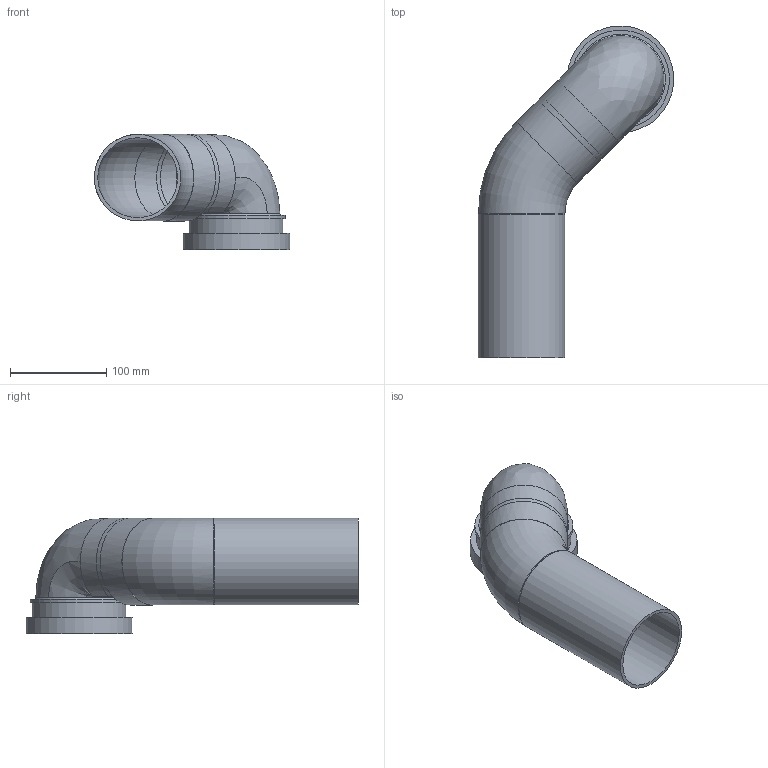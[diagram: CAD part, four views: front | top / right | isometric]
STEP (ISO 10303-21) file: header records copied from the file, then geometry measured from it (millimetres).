
FILE_DESCRIPTION(/* description */ (''),/* implementation_level */ '2;1');
FILE_NAME(/* name */ 'Z:\Geberit\Export\NewStep\366914.stp',/* time_stamp */ '2014-04-02T07:55:13+02:00',/* author */ ('ML'),/* organization */ (''),/* preprocessor_version */ 'ST-DEVELOPER v15.2',/* originating_system */ 'Autodesk Inventor 2014',/* authorisation */ '');
FILE_SCHEMA (('AUTOMOTIVE_DESIGN { 1 0 10303 214 3 1 1 }'));
Length unit declared in the file: millimetre
Products named in the file (3): 366037; 387427; 366914
Bounding box: 203.02 x 345.3 x 120.19 mm (x, y, z)
Volume: 406177.9 mm3; surface area: 237752.7 mm2
Topology: 4 solids, 4 shells, 53 faces, 110 edges, 69 vertices
Faces by surface type: cylinder 16, plane 16, bspline 16, torus 3, cone 2
Full cylindrical faces by diameter (mm): 83 x1, 83.025 x3, 90 x1, 90.375 x1, 91.45 x1, 92.2 x1, 93.575 x1, 98.2 x1, 102 x1, 103.65 x1, 111 x1
Entity records: 2451 total; most frequent: CARTESIAN_POINT 1352, ORIENTED_EDGE 194, DIRECTION 178, EDGE_CURVE 91, AXIS2_PLACEMENT_3D 84, EDGE_LOOP 83, VERTEX_POINT 68, STYLED_ITEM 57
